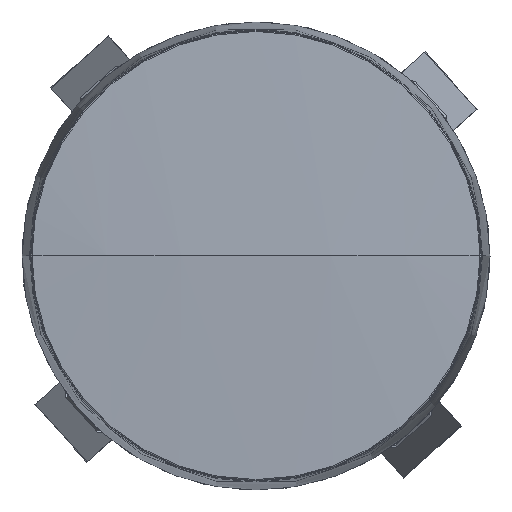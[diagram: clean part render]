
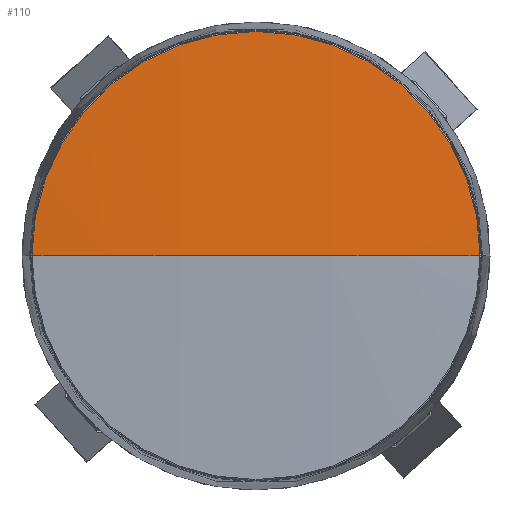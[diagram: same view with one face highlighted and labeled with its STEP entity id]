
A CAD part, top view. The second image highlights one B-rep face of the part: STEP entity #110.
In plain terms, the highlighted spherical face has radius 425.223 mm.
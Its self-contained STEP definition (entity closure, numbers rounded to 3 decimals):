
#1=CARTESIAN_POINT('',(0.,0.,6.013));
#2=DIRECTION('',(0.,0.,-1.));
#3=DIRECTION('',(-1.,0.,0.));
#4=AXIS2_PLACEMENT_3D('',#1,#2,#3);
#21=CARTESIAN_POINT('',(0.,0.,-418.223));
#22=DIRECTION('',(0.,-1.,0.));
#23=DIRECTION('',(0.,0.,1.));
#24=AXIS2_PLACEMENT_3D('',#21,#22,#23);
#26=CARTESIAN_POINT('',(0.,0.,-418.223));
#27=DIRECTION('',(0.,1.,0.));
#28=DIRECTION('',(0.,0.,1.));
#29=AXIS2_PLACEMENT_3D('',#26,#27,#28);
#79=CARTESIAN_POINT('',(0.,0.,7.));
#80=CARTESIAN_POINT('',(28.962,0.,6.013));
#81=VERTEX_POINT('',#79);
#82=VERTEX_POINT('',#80);
#83=CARTESIAN_POINT('',(-28.962,0.,6.013));
#84=VERTEX_POINT('',#83);
#97=CARTESIAN_POINT('',(0.,0.,-418.223));
#98=DIRECTION('',(0.,0.,-1.));
#99=DIRECTION('',(-1.,0.,0.));
#100=AXIS2_PLACEMENT_3D('',#97,#98,#99);
#101=SPHERICAL_SURFACE('',#100,425.223);
#103=ORIENTED_EDGE('',*,*,#102,.T.);
#105=ORIENTED_EDGE('',*,*,#104,.F.);
#107=ORIENTED_EDGE('',*,*,#106,.T.);
#108=EDGE_LOOP('',(#103,#105,#107));
#109=FACE_OUTER_BOUND('',#108,.F.);
#110=ADVANCED_FACE('',(#109),#101,.T.);
#5=CIRCLE('',#4,28.962);
#25=CIRCLE('',#24,425.223);
#30=CIRCLE('',#29,425.223);
#102=EDGE_CURVE('',#84,#82,#5,.T.);
#104=EDGE_CURVE('',#81,#82,#30,.T.);
#106=EDGE_CURVE('',#81,#84,#25,.T.);
